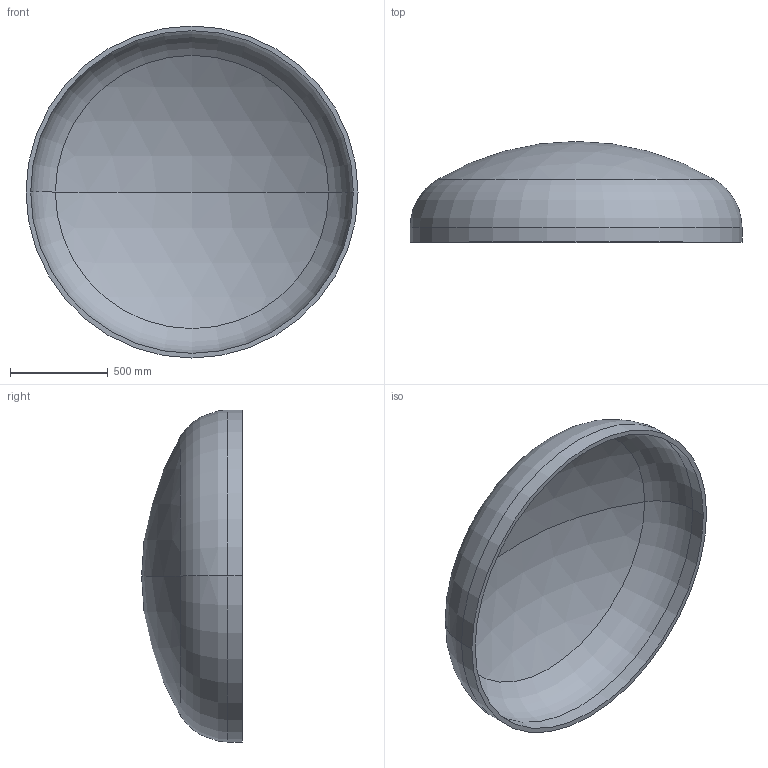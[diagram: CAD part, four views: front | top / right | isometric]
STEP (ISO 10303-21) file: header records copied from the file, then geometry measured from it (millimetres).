
FILE_DESCRIPTION (( 'STEP AP203' ), '1' );
FILE_NAME ('DIN 28013 Korbbogenform_-_Boden DIN 28013 - 1700 x 75 - I - s=24.step', '2016-07-01T11:42:06', ( '' ), ( '' ), 'SwSTEP 2.0', 'SolidWorks 2013', '' );
FILE_SCHEMA (( 'CONFIG_CONTROL_DESIGN' ));
Length unit declared in the file: millimetre
Products named in the file (1): DIN 28013 Korbbogenform_-_Boden DIN 28013 - 1700 x 75 - I - s=24
Bounding box: 1700 x 515.79 x 1700 mm (x, y, z)
Volume: 83430414.7 mm3; surface area: 7080105.9 mm2
Topology: 1 solids, 1 shells, 13 faces, 24 edges, 14 vertices
Faces by surface type: torus 4, cylinder 4, sphere 4, plane 1
Entity records: 407 total; most frequent: DIRECTION 72, CARTESIAN_POINT 52, ORIENTED_EDGE 48, AXIS2_PLACEMENT_3D 34, EDGE_CURVE 24, CIRCLE 20, VERTEX_POINT 14, EDGE_LOOP 14
